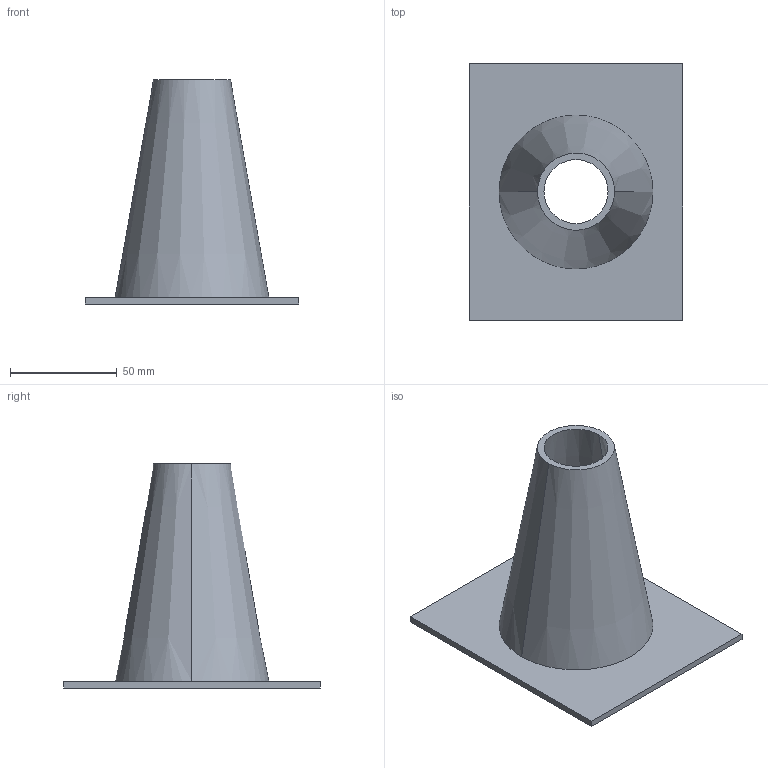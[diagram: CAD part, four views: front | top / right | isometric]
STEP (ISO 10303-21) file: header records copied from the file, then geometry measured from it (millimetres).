
FILE_DESCRIPTION(('CATIA V5 STEP Exchange'),'2;1');
FILE_NAME('C:\_Andres\UNIVERSIDAD\IQS\ASIGNATURAS\DAO\EXF\EXF-15161c\1original\Giménez_Álvarez-Sarandés_Ej08-ensambla_v10.stp','2016-03-04T21:37:16+00:00',('none'),('none'),'CATIA Version 5 Release 20 SP 1 (IN-10)','CATIA V5 STEP AP203','none');
FILE_SCHEMA(('CONFIG_CONTROL_DESIGN'));
Length unit declared in the file: millimetre
Products named in the file (1): Giménez_Álvarez-Sarandés_Ej08-ensambla_v10
Bounding box: 100 x 120 x 105 mm (x, y, z)
Volume: 75394.9 mm3; surface area: 51875.3 mm2
Topology: 1 solids, 1 shells, 11 faces, 24 edges, 16 vertices
Faces by surface type: plane 7, cone 4
Entity records: 414 total; most frequent: CARTESIAN_POINT 127, ORIENTED_EDGE 48, DIRECTION 44, EDGE_CURVE 24, AXIS2_PLACEMENT_3D 17, VECTOR 16, LINE 16, VERTEX_POINT 16
